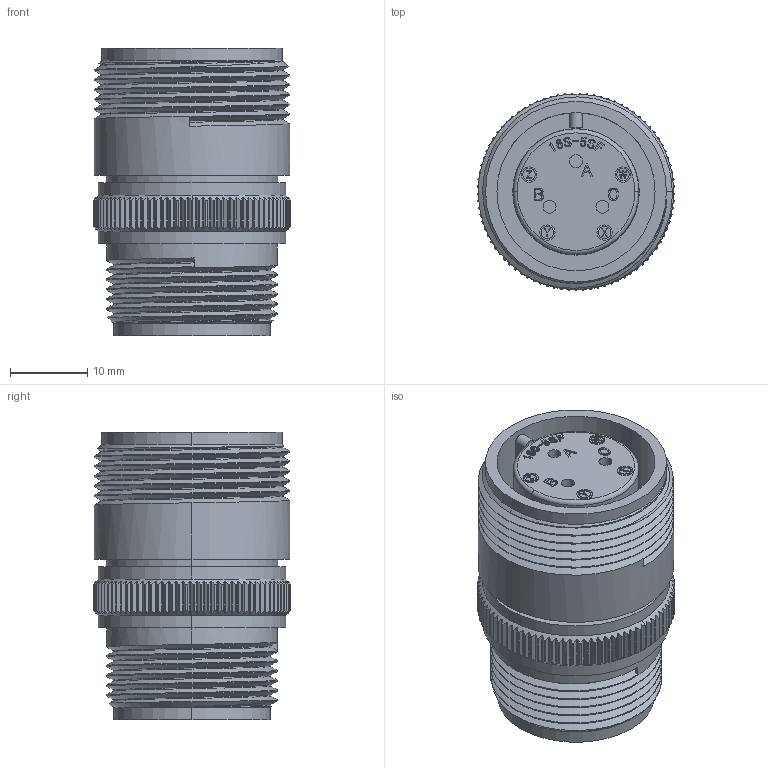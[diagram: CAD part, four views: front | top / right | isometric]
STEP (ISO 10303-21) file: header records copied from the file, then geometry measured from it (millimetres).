
FILE_DESCRIPTION (( 'STEP AP203' ), '1' );
FILE_NAME ('DMS3101A16S-5S.STEP', '2017-07-13T01:39:35', ( '' ), ( '' ), 'SwSTEP 2.0', 'SolidWorks 2015', '' );
FILE_SCHEMA (( 'CONFIG_CONTROL_DESIGN' ));
Length unit declared in the file: millimetre
Products named in the file (1): DMS3101A16S-5S
Bounding box: 25.6 x 25.59 x 37.3 mm (x, y, z)
Volume: 10408.5 mm3; surface area: 8624.1 mm2
Topology: 1 solids, 3 shells, 1077 faces, 3028 edges, 2012 vertices
Faces by surface type: plane 430, cylinder 350, bspline 272, cone 17, torus 8
Entity records: 47604 total; most frequent: CARTESIAN_POINT 22704, ORIENTED_EDGE 6056, DIRECTION 3786, EDGE_CURVE 3028, VERTEX_POINT 2012, VECTOR 1382, LINE 1382, AXIS2_PLACEMENT_3D 1202
